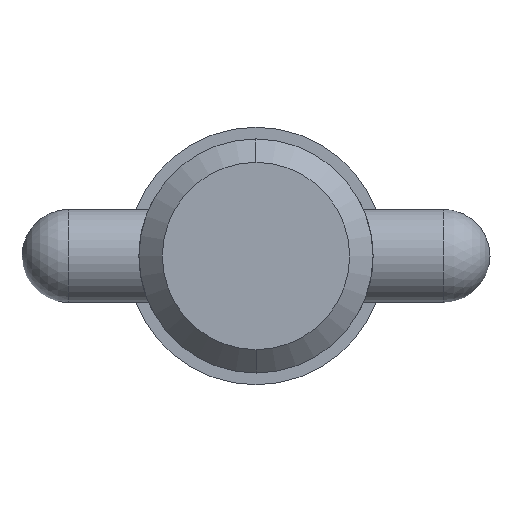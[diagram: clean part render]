
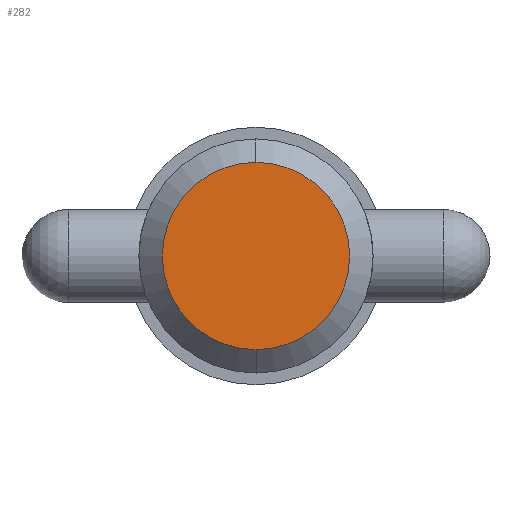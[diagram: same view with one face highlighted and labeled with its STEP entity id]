
A CAD part, left-side view. The second image highlights one B-rep face of the part: STEP entity #282.
In plain terms, the highlighted planar face has unit normal (-1, 0, 0).
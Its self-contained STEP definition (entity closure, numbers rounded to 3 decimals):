
#67 = CIRCLE ( 'NONE', #478, 6.352 ) ;
#87 = AXIS2_PLACEMENT_3D ( 'NONE', #847, #357, #951 ) ;
#156 = AXIS2_PLACEMENT_3D ( 'NONE', #598, #1025, #776 ) ;
#161 = ORIENTED_EDGE ( 'NONE', *, *, #515, .F. ) ;
#162 = DIRECTION ( 'NONE',  ( 1., 0., 0. ) ) ;
#165 = EDGE_LOOP ( 'NONE', ( #971, #161 ) ) ;
#219 = PLANE ( 'NONE',  #87 ) ;
#281 = CARTESIAN_POINT ( 'NONE',  ( 0., 0., 6.352 ) ) ;
#282 = ADVANCED_FACE ( 'NONE', ( #680 ), #219, .T. ) ;
#286 = CARTESIAN_POINT ( 'NONE',  ( 0., 0., -6.352 ) ) ;
#357 = DIRECTION ( 'NONE',  ( -1., 0., 0. ) ) ;
#360 = CIRCLE ( 'NONE', #156, 6.352 ) ;
#385 = CARTESIAN_POINT ( 'NONE',  ( 0., 0., 0. ) ) ;
#400 = DIRECTION ( 'NONE',  ( 0., 0., -1. ) ) ;
#478 = AXIS2_PLACEMENT_3D ( 'NONE', #385, #162, #400 ) ;
#515 = EDGE_CURVE ( 'NONE', #862, #886, #67, .T. ) ;
#598 = CARTESIAN_POINT ( 'NONE',  ( 0., 0., 0. ) ) ;
#680 = FACE_OUTER_BOUND ( 'NONE', #165, .T. ) ;
#776 = DIRECTION ( 'NONE',  ( 0., 0., -1. ) ) ;
#826 = EDGE_CURVE ( 'NONE', #886, #862, #360, .T. ) ;
#847 = CARTESIAN_POINT ( 'NONE',  ( 0., 0., 0. ) ) ;
#862 = VERTEX_POINT ( 'NONE', #281 ) ;
#886 = VERTEX_POINT ( 'NONE', #286 ) ;
#951 = DIRECTION ( 'NONE',  ( 0., 0., 1. ) ) ;
#971 = ORIENTED_EDGE ( 'NONE', *, *, #826, .F. ) ;
#1025 = DIRECTION ( 'NONE',  ( 1., 0., 0. ) ) ;
